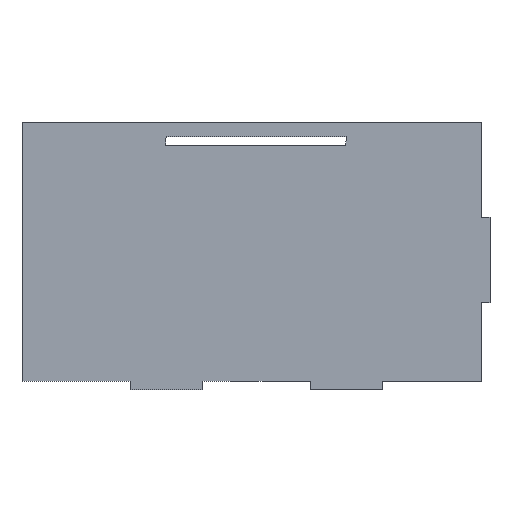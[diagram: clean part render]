
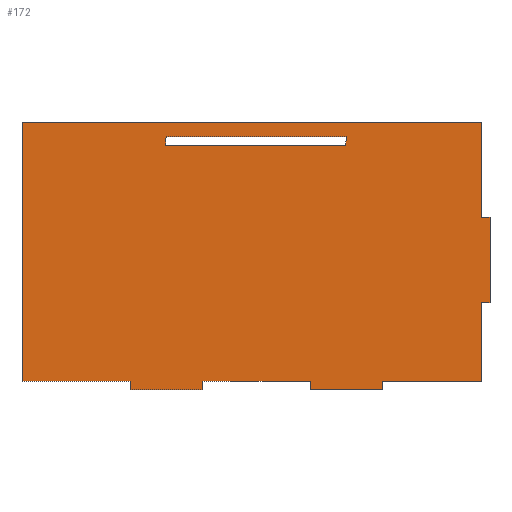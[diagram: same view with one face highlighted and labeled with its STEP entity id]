
A CAD part, top view. The second image highlights one B-rep face of the part: STEP entity #172.
In plain terms, the highlighted planar face has unit normal (0, 0, 1).
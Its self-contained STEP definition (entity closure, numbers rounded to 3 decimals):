
#2 = VECTOR ( 'NONE', #442, 1000. ) ;
#6 = EDGE_CURVE ( 'NONE', #251, #536, #699, .T. ) ;
#11 = VERTEX_POINT ( 'NONE', #243 ) ;
#19 = ORIENTED_EDGE ( 'NONE', *, *, #57, .T. ) ;
#22 = ORIENTED_EDGE ( 'NONE', *, *, #455, .T. ) ;
#29 = EDGE_CURVE ( 'NONE', #413, #234, #129, .T. ) ;
#31 = DIRECTION ( 'NONE',  ( 1., 0., 0. ) ) ;
#41 = PLANE ( 'NONE',  #567 ) ;
#43 = CARTESIAN_POINT ( 'NONE',  ( -601.235, 182.346, 10. ) ) ;
#44 = VERTEX_POINT ( 'NONE', #256 ) ;
#57 = EDGE_CURVE ( 'NONE', #730, #661, #356, .T. ) ;
#63 = DIRECTION ( 'NONE',  ( 0., 1., 0. ) ) ;
#76 = CARTESIAN_POINT ( 'NONE',  ( -401.235, 162.346, 10. ) ) ;
#77 = ORIENTED_EDGE ( 'NONE', *, *, #308, .F. ) ;
#79 = ORIENTED_EDGE ( 'NONE', *, *, #723, .T. ) ;
#81 = CARTESIAN_POINT ( 'NONE',  ( -451.235, -189.447, 10. ) ) ;
#84 = VECTOR ( 'NONE', #107, 1000. ) ;
#89 = LINE ( 'NONE', #606, #500 ) ;
#93 = CARTESIAN_POINT ( 'NONE',  ( -401.235, 162.346, 10. ) ) ;
#96 = EDGE_CURVE ( 'NONE', #384, #251, #303, .T. ) ;
#97 = DIRECTION ( 'NONE',  ( 1., 0., 0. ) ) ;
#103 = CARTESIAN_POINT ( 'NONE',  ( 36.765, 50., 10. ) ) ;
#104 = VERTEX_POINT ( 'NONE', #480 ) ;
#107 = DIRECTION ( 'NONE',  ( 0., -1., 0. ) ) ;
#114 = EDGE_CURVE ( 'NONE', #196, #44, #89, .T. ) ;
#115 = VERTEX_POINT ( 'NONE', #313 ) ;
#129 = LINE ( 'NONE', #347, #375 ) ;
#139 = DIRECTION ( 'NONE',  ( 1., 0., 0. ) ) ;
#143 = CARTESIAN_POINT ( 'NONE',  ( -151.235, 162.346, 10. ) ) ;
#155 = CARTESIAN_POINT ( 'NONE',  ( 48.765, -68.519, 10. ) ) ;
#158 = LINE ( 'NONE', #380, #445 ) ;
#162 = LINE ( 'NONE', #618, #502 ) ;
#168 = CARTESIAN_POINT ( 'NONE',  ( 48.765, 50., 10. ) ) ;
#172 = ADVANCED_FACE ( 'NONE', ( #323, #554 ), #41, .F. ) ;
#185 = DIRECTION ( 'NONE',  ( -1., 0., 0. ) ) ;
#196 = VERTEX_POINT ( 'NONE', #213 ) ;
#199 = CARTESIAN_POINT ( 'NONE',  ( -451.235, -177.447, 10. ) ) ;
#202 = EDGE_CURVE ( 'NONE', #340, #463, #564, .T. ) ;
#210 = CARTESIAN_POINT ( 'NONE',  ( -201.235, -189.447, 10. ) ) ;
#213 = CARTESIAN_POINT ( 'NONE',  ( 36.765, 182.346, 10. ) ) ;
#218 = LINE ( 'NONE', #93, #545 ) ;
#223 = EDGE_CURVE ( 'NONE', #104, #460, #673, .T. ) ;
#233 = VECTOR ( 'NONE', #659, 1000. ) ;
#234 = VERTEX_POINT ( 'NONE', #676 ) ;
#236 = CARTESIAN_POINT ( 'NONE',  ( -101.235, -189.447, 10. ) ) ;
#240 = CARTESIAN_POINT ( 'NONE',  ( -451.235, -189.447, 10. ) ) ;
#241 = EDGE_CURVE ( 'NONE', #536, #196, #450, .T. ) ;
#243 = CARTESIAN_POINT ( 'NONE',  ( -201.235, -189.447, 10. ) ) ;
#250 = DIRECTION ( 'NONE',  ( 0., 1., 0. ) ) ;
#251 = VERTEX_POINT ( 'NONE', #168 ) ;
#256 = CARTESIAN_POINT ( 'NONE',  ( -601.235, 182.346, 10. ) ) ;
#259 = LINE ( 'NONE', #199, #537 ) ;
#261 = VECTOR ( 'NONE', #728, 1000. ) ;
#266 = CARTESIAN_POINT ( 'NONE',  ( 0., 0., 10. ) ) ;
#268 = CARTESIAN_POINT ( 'NONE',  ( -351.235, -189.447, 10. ) ) ;
#281 = EDGE_LOOP ( 'NONE', ( #481, #22, #508, #465, #444, #403, #655, #715, #19, #79, #309, #695, #630, #590, #644, #365 ) ) ;
#290 = CARTESIAN_POINT ( 'NONE',  ( -101.235, -177.447, 10. ) ) ;
#292 = CARTESIAN_POINT ( 'NONE',  ( 48.765, 50., 10. ) ) ;
#293 = EDGE_CURVE ( 'NONE', #512, #340, #483, .T. ) ;
#294 = ORIENTED_EDGE ( 'NONE', *, *, #616, .F. ) ;
#296 = LINE ( 'NONE', #594, #233 ) ;
#303 = LINE ( 'NONE', #535, #688 ) ;
#306 = DIRECTION ( 'NONE',  ( 1., 0., 0. ) ) ;
#308 = EDGE_CURVE ( 'NONE', #433, #512, #612, .T. ) ;
#309 = ORIENTED_EDGE ( 'NONE', *, *, #532, .T. ) ;
#313 = CARTESIAN_POINT ( 'NONE',  ( 36.765, -68.519, 10. ) ) ;
#320 = DIRECTION ( 'NONE',  ( 1., 0., 0. ) ) ;
#323 = FACE_OUTER_BOUND ( 'NONE', #281, .T. ) ;
#326 = LINE ( 'NONE', #210, #84 ) ;
#333 = CARTESIAN_POINT ( 'NONE',  ( -451.235, -189.447, 10. ) ) ;
#334 = DIRECTION ( 'NONE',  ( 0., -1., 0. ) ) ;
#338 = VECTOR ( 'NONE', #306, 1000. ) ;
#340 = VERTEX_POINT ( 'NONE', #434 ) ;
#347 = CARTESIAN_POINT ( 'NONE',  ( -351.235, -177.447, 10. ) ) ;
#350 = EDGE_CURVE ( 'NONE', #115, #384, #721, .T. ) ;
#352 = EDGE_CURVE ( 'NONE', #11, #730, #158, .T. ) ;
#356 = LINE ( 'NONE', #579, #464 ) ;
#364 = LINE ( 'NONE', #81, #338 ) ;
#365 = ORIENTED_EDGE ( 'NONE', *, *, #114, .T. ) ;
#366 = DIRECTION ( 'NONE',  ( 0., -1., 0. ) ) ;
#375 = VECTOR ( 'NONE', #523, 1000. ) ;
#380 = CARTESIAN_POINT ( 'NONE',  ( -201.235, -189.447, 10. ) ) ;
#383 = CARTESIAN_POINT ( 'NONE',  ( -401.235, 150.346, 10. ) ) ;
#384 = VERTEX_POINT ( 'NONE', #155 ) ;
#403 = ORIENTED_EDGE ( 'NONE', *, *, #29, .T. ) ;
#411 = EDGE_CURVE ( 'NONE', #566, #413, #296, .T. ) ;
#413 = VERTEX_POINT ( 'NONE', #654 ) ;
#433 = VERTEX_POINT ( 'NONE', #76 ) ;
#434 = CARTESIAN_POINT ( 'NONE',  ( -151.235, 150.346, 10. ) ) ;
#441 = DIRECTION ( 'NONE',  ( -1., 0., 0. ) ) ;
#442 = DIRECTION ( 'NONE',  ( 0., 1., 0. ) ) ;
#443 = DIRECTION ( 'NONE',  ( 0., 1., 0. ) ) ;
#444 = ORIENTED_EDGE ( 'NONE', *, *, #411, .T. ) ;
#445 = VECTOR ( 'NONE', #97, 1000. ) ;
#450 = LINE ( 'NONE', #681, #454 ) ;
#454 = VECTOR ( 'NONE', #684, 1000. ) ;
#455 = EDGE_CURVE ( 'NONE', #505, #104, #259, .T. ) ;
#459 = EDGE_CURVE ( 'NONE', #460, #566, #364, .T. ) ;
#460 = VERTEX_POINT ( 'NONE', #240 ) ;
#461 = LINE ( 'NONE', #706, #638 ) ;
#462 = VECTOR ( 'NONE', #31, 1000. ) ;
#463 = VERTEX_POINT ( 'NONE', #143 ) ;
#464 = VECTOR ( 'NONE', #63, 1000. ) ;
#465 = ORIENTED_EDGE ( 'NONE', *, *, #459, .T. ) ;
#466 = CARTESIAN_POINT ( 'NONE',  ( 36.765, -177.447, 10. ) ) ;
#480 = CARTESIAN_POINT ( 'NONE',  ( -451.235, -177.447, 10. ) ) ;
#481 = ORIENTED_EDGE ( 'NONE', *, *, #546, .T. ) ;
#483 = LINE ( 'NONE', #719, #683 ) ;
#485 = EDGE_LOOP ( 'NONE', ( #77, #294, #584, #510 ) ) ;
#498 = CARTESIAN_POINT ( 'NONE',  ( -601.235, -177.447, 10. ) ) ;
#500 = VECTOR ( 'NONE', #672, 1000. ) ;
#502 = VECTOR ( 'NONE', #443, 1000. ) ;
#505 = VERTEX_POINT ( 'NONE', #498 ) ;
#508 = ORIENTED_EDGE ( 'NONE', *, *, #223, .T. ) ;
#510 = ORIENTED_EDGE ( 'NONE', *, *, #293, .F. ) ;
#512 = VERTEX_POINT ( 'NONE', #383 ) ;
#514 = EDGE_CURVE ( 'NONE', #234, #11, #326, .T. ) ;
#516 = VECTOR ( 'NONE', #366, 1000. ) ;
#523 = DIRECTION ( 'NONE',  ( 1., 0., 0. ) ) ;
#532 = EDGE_CURVE ( 'NONE', #636, #115, #162, .T. ) ;
#535 = CARTESIAN_POINT ( 'NONE',  ( 48.765, 50., 10. ) ) ;
#536 = VERTEX_POINT ( 'NONE', #103 ) ;
#537 = VECTOR ( 'NONE', #139, 1000. ) ;
#545 = VECTOR ( 'NONE', #185, 1000. ) ;
#546 = EDGE_CURVE ( 'NONE', #44, #505, #724, .T. ) ;
#554 = FACE_BOUND ( 'NONE', #485, .T. ) ;
#564 = LINE ( 'NONE', #629, #2 ) ;
#566 = VERTEX_POINT ( 'NONE', #268 ) ;
#567 = AXIS2_PLACEMENT_3D ( 'NONE', #266, #662, #441 ) ;
#579 = CARTESIAN_POINT ( 'NONE',  ( -101.235, -189.447, 10. ) ) ;
#584 = ORIENTED_EDGE ( 'NONE', *, *, #202, .F. ) ;
#590 = ORIENTED_EDGE ( 'NONE', *, *, #6, .T. ) ;
#594 = CARTESIAN_POINT ( 'NONE',  ( -351.235, -189.447, 10. ) ) ;
#606 = CARTESIAN_POINT ( 'NONE',  ( -601.235, 182.346, 10. ) ) ;
#608 = CARTESIAN_POINT ( 'NONE',  ( -401.235, 162.346, 10. ) ) ;
#612 = LINE ( 'NONE', #608, #516 ) ;
#616 = EDGE_CURVE ( 'NONE', #463, #433, #218, .T. ) ;
#618 = CARTESIAN_POINT ( 'NONE',  ( 36.765, -68.519, 10. ) ) ;
#629 = CARTESIAN_POINT ( 'NONE',  ( -151.235, 162.346, 10. ) ) ;
#630 = ORIENTED_EDGE ( 'NONE', *, *, #96, .T. ) ;
#636 = VERTEX_POINT ( 'NONE', #466 ) ;
#638 = VECTOR ( 'NONE', #691, 1000. ) ;
#644 = ORIENTED_EDGE ( 'NONE', *, *, #241, .T. ) ;
#654 = CARTESIAN_POINT ( 'NONE',  ( -351.235, -177.447, 10. ) ) ;
#655 = ORIENTED_EDGE ( 'NONE', *, *, #514, .T. ) ;
#656 = DIRECTION ( 'NONE',  ( -1., 0., 0. ) ) ;
#659 = DIRECTION ( 'NONE',  ( 0., 1., 0. ) ) ;
#661 = VERTEX_POINT ( 'NONE', #290 ) ;
#662 = DIRECTION ( 'NONE',  ( 0., 0., -1. ) ) ;
#670 = CARTESIAN_POINT ( 'NONE',  ( 48.765, -68.519, 10. ) ) ;
#672 = DIRECTION ( 'NONE',  ( -1., 0., 0. ) ) ;
#673 = LINE ( 'NONE', #333, #261 ) ;
#676 = CARTESIAN_POINT ( 'NONE',  ( -201.235, -177.447, 10. ) ) ;
#681 = CARTESIAN_POINT ( 'NONE',  ( 36.765, 50., 10. ) ) ;
#683 = VECTOR ( 'NONE', #320, 1000. ) ;
#684 = DIRECTION ( 'NONE',  ( 0., 1., 0. ) ) ;
#688 = VECTOR ( 'NONE', #250, 1000. ) ;
#691 = DIRECTION ( 'NONE',  ( 1., 0., 0. ) ) ;
#694 = VECTOR ( 'NONE', #656, 1000. ) ;
#695 = ORIENTED_EDGE ( 'NONE', *, *, #350, .T. ) ;
#699 = LINE ( 'NONE', #292, #694 ) ;
#706 = CARTESIAN_POINT ( 'NONE',  ( -101.235, -177.447, 10. ) ) ;
#713 = VECTOR ( 'NONE', #334, 1000. ) ;
#715 = ORIENTED_EDGE ( 'NONE', *, *, #352, .T. ) ;
#719 = CARTESIAN_POINT ( 'NONE',  ( -401.235, 150.346, 10. ) ) ;
#721 = LINE ( 'NONE', #670, #462 ) ;
#723 = EDGE_CURVE ( 'NONE', #661, #636, #461, .T. ) ;
#724 = LINE ( 'NONE', #43, #713 ) ;
#728 = DIRECTION ( 'NONE',  ( 0., -1., 0. ) ) ;
#730 = VERTEX_POINT ( 'NONE', #236 ) ;
